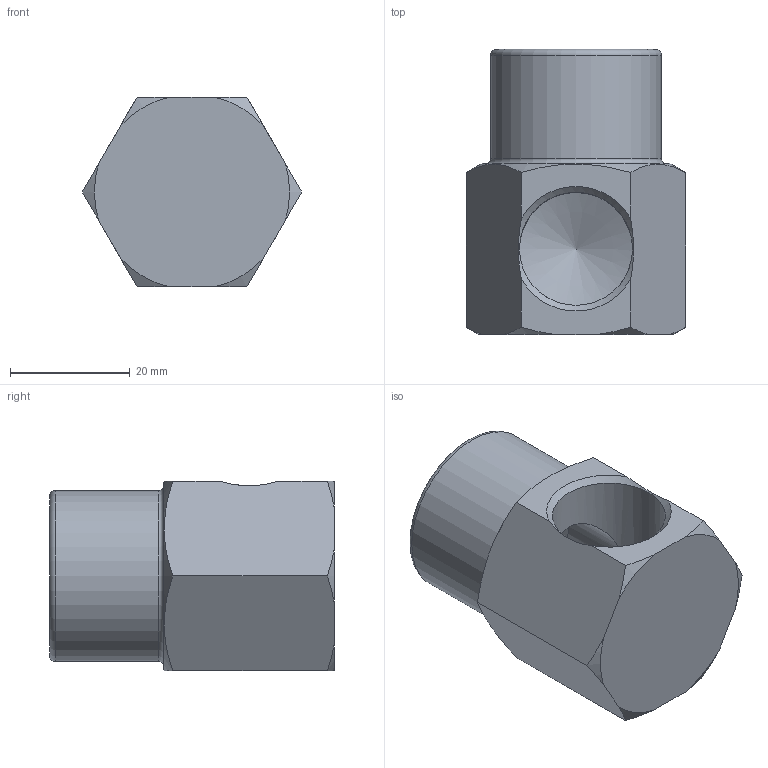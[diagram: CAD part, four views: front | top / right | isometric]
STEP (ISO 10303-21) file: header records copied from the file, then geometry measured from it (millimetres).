
FILE_DESCRIPTION(/* description */ (''),/* implementation_level */ '2;1');
FILE_NAME(/* name */ 'C:/Users/drich/Desktop/CAD FILES/SINCE 1-10-20/Rear Load Cascades/Quick Coupler Type/Head Only/50S v1.step',/* time_stamp */ '2020-01-13T19:28:54-06:00',/* author */ (''),/* organization */ (''),/* preprocessor_version */ 'ST-DEVELOPER v18',/* originating_system */ 'Autodesk Translation Framework v8.12.0.6',/* authorisation */ '');
FILE_SCHEMA (('AUTOMOTIVE_DESIGN { 1 0 10303 214 3 1 1 }'));
Length unit declared in the file: inch
Products named in the file (1): 50S
Bounding box: 36.66 x 47.62 x 31.75 mm (x, y, z)
Volume: 23790.3 mm3; surface area: 8802.8 mm2
Topology: 1 solids, 1 shells, 27 faces, 76 edges, 50 vertices
Faces by surface type: cone 11, plane 10, cylinder 4, torus 2
Full cylindrical faces by diameter (mm): 15.875 x1, 18.901 x2, 28.575 x1
Entity records: 935 total; most frequent: CARTESIAN_POINT 245, ORIENTED_EDGE 150, DIRECTION 133, EDGE_CURVE 75, AXIS2_PLACEMENT_3D 55, VERTEX_POINT 50, EDGE_LOOP 29, FACE_OUTER_BOUND 27
